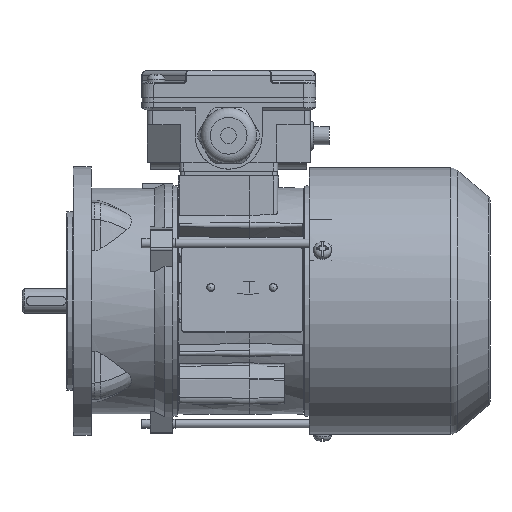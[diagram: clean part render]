
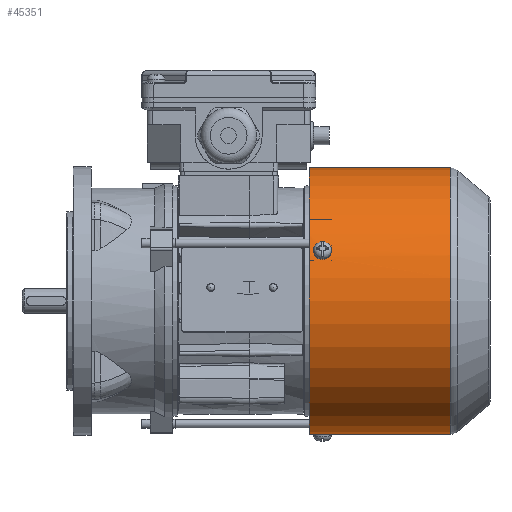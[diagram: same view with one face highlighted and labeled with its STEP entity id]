
A CAD part, front view. The second image highlights one B-rep face of the part: STEP entity #45351.
In plain terms, the highlighted cylindrical face has radius 59.6 mm (diameter 119.2 mm), a full revolution.
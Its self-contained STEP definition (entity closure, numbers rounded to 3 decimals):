
#707=B_SPLINE_CURVE_WITH_KNOTS('',3,(#60394,#60395,#60396,#60397,#60398,
#60399,#60400),.UNSPECIFIED.,.F.,.F.,(4,1,1,1,4),(0.,
0.002,0.004,0.006,0.007),
 .UNSPECIFIED.);
#708=B_SPLINE_CURVE_WITH_KNOTS('',3,(#60406,#60407,#60408,#60409,#60410,
#60411,#60412),.UNSPECIFIED.,.F.,.F.,(4,1,1,1,4),(0.,
0.002,0.004,0.006,0.007),
 .UNSPECIFIED.);
#709=B_SPLINE_CURVE_WITH_KNOTS('',3,(#60445,#60446,#60447,#60448,#60449,
#60450,#60451),.UNSPECIFIED.,.F.,.F.,(4,1,1,1,4),(0.,0.002,
0.004,0.006,0.008),
 .UNSPECIFIED.);
#710=B_SPLINE_CURVE_WITH_KNOTS('',3,(#60455,#60456,#60457,#60458,#60459,
#60460,#60461),.UNSPECIFIED.,.F.,.F.,(4,1,1,1,4),(0.,
0.002,0.004,0.006,0.008),
 .UNSPECIFIED.);
#711=B_SPLINE_CURVE_WITH_KNOTS('',3,(#60465,#60466,#60467,#60468,#60469,
#60470,#60471),.UNSPECIFIED.,.F.,.F.,(4,1,1,1,4),(0.,0.002,
0.004,0.006,0.008),
 .UNSPECIFIED.);
#712=B_SPLINE_CURVE_WITH_KNOTS('',3,(#60475,#60476,#60477,#60478,#60479,
#60480,#60481),.UNSPECIFIED.,.F.,.F.,(4,1,1,1,4),(0.,0.002,
0.004,0.006,0.008),
 .UNSPECIFIED.);
#1565=CYLINDRICAL_SURFACE('',#47301,59.6);
#7402=ORIENTED_EDGE('',*,*,#17127,.T.);
#7403=ORIENTED_EDGE('',*,*,#17128,.T.);
#7404=ORIENTED_EDGE('',*,*,#17129,.T.);
#7405=ORIENTED_EDGE('',*,*,#17130,.T.);
#7406=ORIENTED_EDGE('',*,*,#17110,.F.);
#7407=ORIENTED_EDGE('',*,*,#17113,.F.);
#7408=ORIENTED_EDGE('',*,*,#17131,.T.);
#7409=ORIENTED_EDGE('',*,*,#17132,.T.);
#7410=ORIENTED_EDGE('',*,*,#17133,.T.);
#7411=ORIENTED_EDGE('',*,*,#17134,.T.);
#7412=ORIENTED_EDGE('',*,*,#17135,.F.);
#7413=ORIENTED_EDGE('',*,*,#17136,.T.);
#17110=EDGE_CURVE('',#22007,#22008,#707,.T.);
#17113=EDGE_CURVE('',#22008,#22007,#708,.T.);
#17127=EDGE_CURVE('',#22023,#22024,#25239,.F.);
#17128=EDGE_CURVE('',#22024,#22025,#709,.T.);
#17129=EDGE_CURVE('',#22025,#22026,#25240,.F.);
#17130=EDGE_CURVE('',#22026,#22023,#710,.T.);
#17131=EDGE_CURVE('',#22027,#22028,#25241,.F.);
#17132=EDGE_CURVE('',#22028,#22029,#711,.T.);
#17133=EDGE_CURVE('',#22029,#22030,#25242,.F.);
#17134=EDGE_CURVE('',#22030,#22027,#712,.T.);
#17135=EDGE_CURVE('',#22031,#22031,#25243,.T.);
#17136=EDGE_CURVE('',#22032,#22032,#25244,.F.);
#22007=VERTEX_POINT('',#60392);
#22008=VERTEX_POINT('',#60393);
#22023=VERTEX_POINT('',#60443);
#22024=VERTEX_POINT('',#60444);
#22025=VERTEX_POINT('',#60452);
#22026=VERTEX_POINT('',#60454);
#22027=VERTEX_POINT('',#60463);
#22028=VERTEX_POINT('',#60464);
#22029=VERTEX_POINT('',#60472);
#22030=VERTEX_POINT('',#60474);
#22031=VERTEX_POINT('',#60483);
#22032=VERTEX_POINT('',#60485);
#25239=CIRCLE('',#47302,59.6);
#25240=CIRCLE('',#47303,59.6);
#25241=CIRCLE('',#47304,59.6);
#25242=CIRCLE('',#47305,59.6);
#25243=CIRCLE('',#47306,59.6);
#25244=CIRCLE('',#47307,59.6);
#26665=EDGE_LOOP('',(#7402,#7403,#7404,#7405));
#26666=EDGE_LOOP('',(#7406,#7407));
#26667=EDGE_LOOP('',(#7408,#7409,#7410,#7411));
#26668=EDGE_LOOP('',(#7412));
#26669=EDGE_LOOP('',(#7413));
#28928=FACE_BOUND('',#26665,.T.);
#28929=FACE_BOUND('',#26666,.T.);
#28930=FACE_BOUND('',#26667,.T.);
#28931=FACE_BOUND('',#26668,.T.);
#28932=FACE_BOUND('',#26669,.T.);
#45351=ADVANCED_FACE('',(#28928,#28929,#28930,#28931,#28932),#1565,.T.);
#47301=AXIS2_PLACEMENT_3D('',#60441,#50968,#50969);
#47302=AXIS2_PLACEMENT_3D('',#60442,#50970,#50971);
#47303=AXIS2_PLACEMENT_3D('',#60453,#50972,#50973);
#47304=AXIS2_PLACEMENT_3D('',#60462,#50974,#50975);
#47305=AXIS2_PLACEMENT_3D('',#60473,#50976,#50977);
#47306=AXIS2_PLACEMENT_3D('',#60482,#50978,#50979);
#47307=AXIS2_PLACEMENT_3D('',#60484,#50980,#50981);
#50968=DIRECTION('',(-1.,0.,0.));
#50969=DIRECTION('',(0.,0.,1.));
#50970=DIRECTION('',(-1.,0.,0.));
#50971=DIRECTION('',(0.,0.866,-0.5));
#50972=DIRECTION('',(1.,0.,0.));
#50973=DIRECTION('',(0.,-0.866,0.5));
#50974=DIRECTION('',(-1.,0.,0.));
#50975=DIRECTION('',(0.,0.,1.));
#50976=DIRECTION('',(1.,0.,0.));
#50977=DIRECTION('',(0.,0.,-1.));
#50978=DIRECTION('',(-1.,0.,0.));
#50979=DIRECTION('',(0.,0.,1.));
#50980=DIRECTION('',(1.,0.,0.));
#50981=DIRECTION('',(0.,0.,-1.));
#60392=CARTESIAN_POINT('',(35.,8.295,-59.02));
#60393=CARTESIAN_POINT('',(30.,8.295,-59.02));
#60394=CARTESIAN_POINT('',(35.,8.295,-59.02));
#60395=CARTESIAN_POINT('',(34.937,7.681,-59.106));
#60396=CARTESIAN_POINT('',(34.356,6.499,-59.249));
#60397=CARTESIAN_POINT('',(32.502,5.777,-59.318));
#60398=CARTESIAN_POINT('',(30.649,6.493,-59.25));
#60399=CARTESIAN_POINT('',(30.063,7.681,-59.106));
#60400=CARTESIAN_POINT('',(30.,8.295,-59.02));
#60406=CARTESIAN_POINT('',(30.,8.295,-59.02));
#60407=CARTESIAN_POINT('',(30.063,8.908,-58.934));
#60408=CARTESIAN_POINT('',(30.644,10.084,-58.746));
#60409=CARTESIAN_POINT('',(32.498,10.797,-58.613));
#60410=CARTESIAN_POINT('',(34.351,10.09,-58.745));
#60411=CARTESIAN_POINT('',(34.937,8.908,-58.934));
#60412=CARTESIAN_POINT('',(35.,8.295,-59.02));
#60441=CARTESIAN_POINT('',(-33.5,0.,0.));
#60442=CARTESIAN_POINT('',(35.,0.,0.));
#60443=CARTESIAN_POINT('',(35.,47.484,36.02));
#60444=CARTESIAN_POINT('',(35.,46.437,37.36));
#60445=CARTESIAN_POINT('',(35.,46.437,37.36));
#60446=CARTESIAN_POINT('',(35.,46.023,37.874));
#60447=CARTESIAN_POINT('',(34.458,45.191,38.867));
#60448=CARTESIAN_POINT('',(32.502,44.648,39.479));
#60449=CARTESIAN_POINT('',(30.542,45.19,38.869));
#60450=CARTESIAN_POINT('',(30.,46.023,37.874));
#60451=CARTESIAN_POINT('',(30.,46.437,37.36));
#60452=CARTESIAN_POINT('',(30.,46.437,37.36));
#60453=CARTESIAN_POINT('',(30.,0.,0.));
#60454=CARTESIAN_POINT('',(30.,47.484,36.02));
#60455=CARTESIAN_POINT('',(30.,47.484,36.02));
#60456=CARTESIAN_POINT('',(30.,47.883,35.493));
#60457=CARTESIAN_POINT('',(30.542,48.645,34.446));
#60458=CARTESIAN_POINT('',(32.498,49.108,33.771));
#60459=CARTESIAN_POINT('',(34.458,48.646,34.444));
#60460=CARTESIAN_POINT('',(35.,47.883,35.493));
#60461=CARTESIAN_POINT('',(35.,47.484,36.02));
#60462=CARTESIAN_POINT('',(35.,0.,0.));
#60463=CARTESIAN_POINT('',(35.,-54.936,23.112));
#60464=CARTESIAN_POINT('',(35.,-55.573,21.536));
#60465=CARTESIAN_POINT('',(35.,-55.573,21.536));
#60466=CARTESIAN_POINT('',(35.,-55.812,20.92));
#60467=CARTESIAN_POINT('',(34.458,-56.255,19.703));
#60468=CARTESIAN_POINT('',(32.502,-56.514,18.927));
#60469=CARTESIAN_POINT('',(30.542,-56.256,19.701));
#60470=CARTESIAN_POINT('',(30.,-55.812,20.92));
#60471=CARTESIAN_POINT('',(30.,-55.573,21.536));
#60472=CARTESIAN_POINT('',(30.,-55.573,21.536));
#60473=CARTESIAN_POINT('',(30.,0.,0.));
#60474=CARTESIAN_POINT('',(30.,-54.936,23.112));
#60475=CARTESIAN_POINT('',(30.,-54.936,23.112));
#60476=CARTESIAN_POINT('',(30.,-54.68,23.721));
#60477=CARTESIAN_POINT('',(30.542,-54.154,24.905));
#60478=CARTESIAN_POINT('',(32.498,-53.8,25.643));
#60479=CARTESIAN_POINT('',(34.458,-54.153,24.907));
#60480=CARTESIAN_POINT('',(35.,-54.68,23.721));
#60481=CARTESIAN_POINT('',(35.,-54.936,23.112));
#60482=CARTESIAN_POINT('',(26.5,0.,0.));
#60483=CARTESIAN_POINT('',(26.5,0.,59.6));
#60484=CARTESIAN_POINT('',(89.809,0.,0.));
#60485=CARTESIAN_POINT('',(89.809,0.,-59.6));
